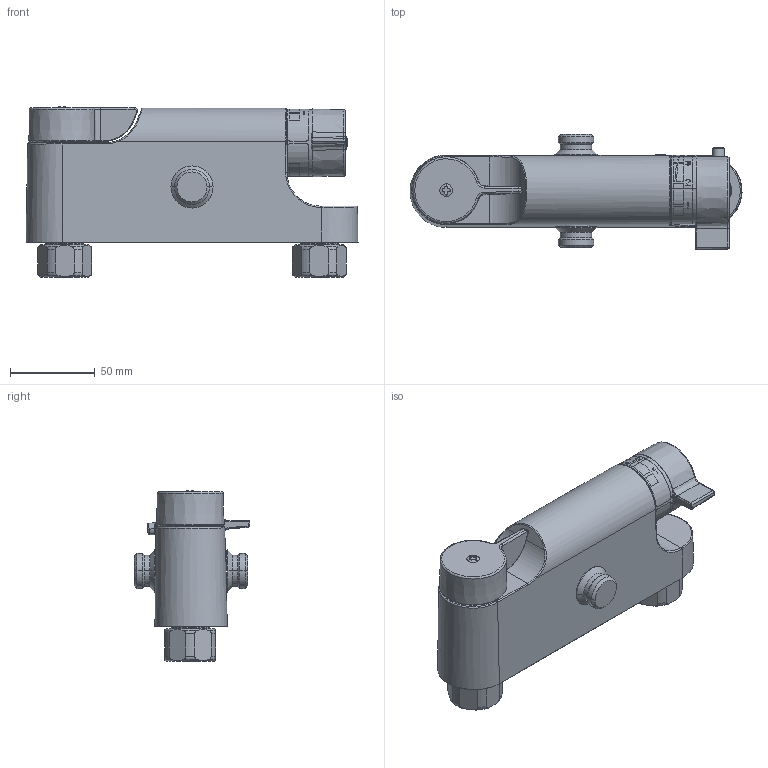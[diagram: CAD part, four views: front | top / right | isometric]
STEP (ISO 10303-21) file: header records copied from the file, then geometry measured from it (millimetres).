
FILE_DESCRIPTION((''),'2;1');
FILE_NAME('27650--00_SW0001','2026-10-07T10:55:54',('simi1'),(''),'CREO PARAMETRIC BY PTC INC, 2022244','CREO PARAMETRIC BY PTC INC, 2022244','');
FILE_SCHEMA(('CONFIG_CONTROL_DESIGN'));
Length unit declared in the file: millimetre
Products named in the file (1): 27650--00_SW0001
Bounding box: 195.62 x 67.96 x 100.47 mm (x, y, z)
Surface area: 73716.1 mm2 (no closed solid volume)
Topology: 0 solids, 35 shells, 262 faces, 905 edges, 670 vertices
Faces by surface type: plane 73, cylinder 73, bspline 44, torus 36, cone 28, sphere 8
Entity records: 13975 total; most frequent: CARTESIAN_POINT 6866, ORIENTED_EDGE 1441, DIRECTION 1322, EDGE_CURVE 903, VERTEX_POINT 670, AXIS2_PLACEMENT_3D 528, B_SPLINE_CURVE_WITH_KNOTS 327, CIRCLE 310
